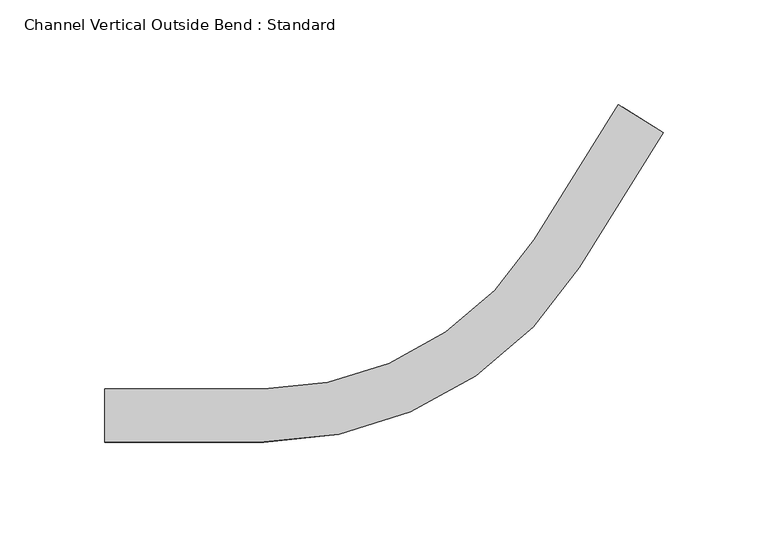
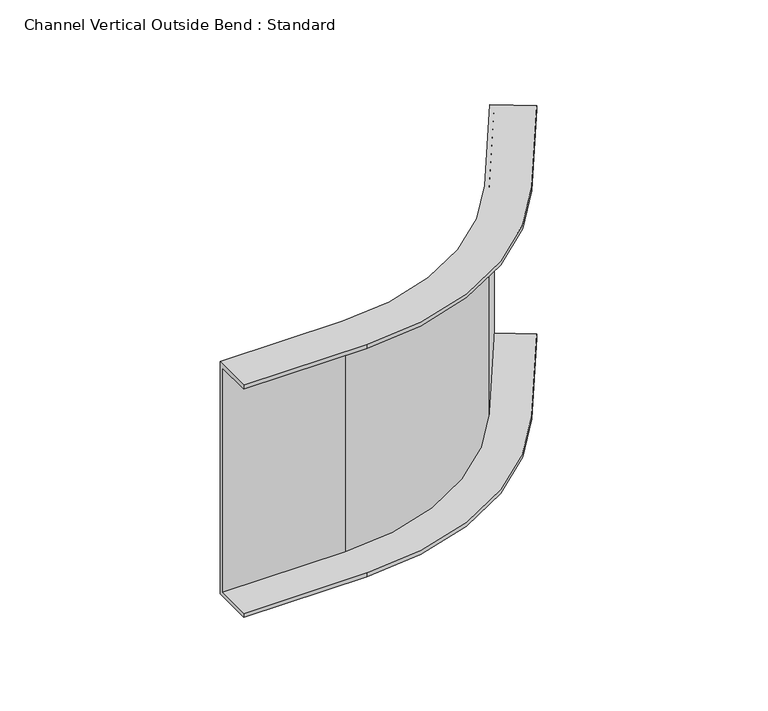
"""IFC4 building model written with IfcOpenShell, lengths in millimetres: cable carrier fitting geometry, Channel Vertical Outside Bend : Standard."""

from ifc_helpers import new_model, si_unit, frame, origin, place, context, project, spatial, polyline, circle_curve, source, transform, mapped, element, save
from ifc_brep_helpers import plane_surface, cylinder_surface, revolved_surface, advanced_brep


def channel_vertical_outside_bend_standard_74500d54(model_context):
    return source(origin(), model_context, "Body", "AdvancedBrep", [
        advanced_brep(
        [(-167.7164244, -12.7, 76.2), (-167.7164244, 12.7, 76.2), (-167.7164244, 12.7, -76.2), (-167.7164244, -12.7, -76.2), (-167.7164244, -12.7, -73.66), (-167.7164244, 10.16, -73.66), (-167.7164244, 10.16, 73.66), (-167.7164244, -12.7, 73.66), (99.646375, 135.5016197, 76.2), (99.646375, 135.5016197, 73.66), (80.2599955, 147.6155741, 73.66), (80.2599955, 147.6155741, -73.66), (99.646375, 135.5016197, -73.66), (99.646375, 135.5016197, -76.2), (78.1059534, 148.9615691, -76.2), (78.1059534, 148.9615691, 76.2), (-91.5164244, -12.7, 76.2), (59.2665271, 70.8803548, 76.2), (37.7261055, 84.3403041, 76.2), (-91.5164244, 12.7, 76.2), (-91.5164244, 12.7, -76.2), (37.7261055, 84.3403041, -76.2), (59.2665271, 70.8803548, -76.2), (-91.5164244, -12.7, -76.2), (-91.5164244, -12.7, -73.66), (59.2665271, 70.8803548, -73.66), (39.8801476, 82.9943092, -73.66), (-91.5164244, 10.16, -73.66), (-91.5164244, 10.16, 73.66), (39.8801476, 82.9943092, 73.66), (59.2665271, 70.8803548, 73.66), (-91.5164244, -12.7, 73.66)],
        [
            (0, 1),
            (1, 2),
            (2, 3),
            (3, 4),
            (4, 5),
            (5, 6),
            (6, 7),
            (7, 0),
            (8, 9),
            (9, 10),
            (10, 11),
            (11, 12),
            (12, 13),
            (13, 14),
            (14, 15),
            (15, 8),
            (0, 16),
            (16, 17, circle_curve(frame((-91.5164244, 165.1, 76.2), z_axis=(0.0, 0.0, 1.0), x_axis=(0.0, -1.0, 0.0)), 177.8)),
            (17, 8),
            (15, 18),
            (18, 19, circle_curve(frame((-91.5164244, 165.1, 76.2), z_axis=(0.0, 0.0, -1.0), x_axis=(0.0, -1.0, 0.0)), 152.4)),
            (19, 1),
            (19, 20),
            (20, 2),
            (20, 21, circle_curve(frame((-91.5164244, 165.1, -76.2), z_axis=(0.0, 0.0, 1.0), x_axis=(0.0, -1.0, 0.0)), 152.4)),
            (21, 14),
            (13, 22),
            (22, 23, circle_curve(frame((-91.5164244, 165.1, -76.2), z_axis=(0.0, 0.0, -1.0), x_axis=(0.0, -1.0, 0.0)), 177.8)),
            (23, 3),
            (23, 24),
            (24, 4),
            (24, 25, circle_curve(frame((-91.5164244, 165.1, -73.66), z_axis=(0.0, 0.0, 1.0), x_axis=(0.0, -1.0, 0.0)), 177.8)),
            (25, 12),
            (11, 26),
            (26, 27, circle_curve(frame((-91.5164244, 165.1, -73.66), z_axis=(0.0, 0.0, -1.0), x_axis=(0.0, -1.0, 0.0)), 154.94)),
            (27, 5),
            (27, 28),
            (28, 6),
            (28, 29, circle_curve(frame((-91.5164244, 165.1, 73.66), z_axis=(0.0, 0.0, 1.0), x_axis=(0.0, -1.0, 0.0)), 154.94)),
            (29, 10),
            (9, 30),
            (30, 31, circle_curve(frame((-91.5164244, 165.1, 73.66), z_axis=(0.0, 0.0, -1.0), x_axis=(0.0, -1.0, 0.0)), 177.8)),
            (31, 7),
            (31, 16),
            (18, 21),
            (22, 25),
            (26, 29),
            (30, 17),
        ],
        [
            plane_surface(frame((-167.7164244, 0.0, 0.0), z_axis=(-1.0, 0.0, 0.0), x_axis=(0.0, 0.0, 1.0))),
            plane_surface(frame((88.8761642, 142.2315944, 0.0), z_axis=(0.5299192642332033, 0.8480480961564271, 0.0), x_axis=(0.0, 0.0, 1.0))),
            plane_surface(frame((-167.7164244, -12.7, 76.2), z_axis=(0.0, 0.0, 1.0), x_axis=(1.0, 0.0, 0.0))),
            plane_surface(frame((-167.7164244, 12.7, 76.2), z_axis=(0.0, 1.0, 0.0), x_axis=(1.0, 0.0, 0.0))),
            plane_surface(frame((-167.7164244, 12.7, -76.2), z_axis=(0.0, 0.0, -1.0), x_axis=(1.0, 0.0, 0.0))),
            plane_surface(frame((-167.7164244, -12.7, -76.2), z_axis=(0.0, -1.0, 0.0), x_axis=(1.0, 0.0, 0.0))),
            plane_surface(frame((-167.7164244, -12.7, -73.66), z_axis=(0.0, 0.0, 1.0), x_axis=(1.0, 0.0, 0.0))),
            plane_surface(frame((-167.7164244, 10.16, -73.66), z_axis=(0.0, -1.0, 0.0), x_axis=(1.0, 0.0, 0.0))),
            plane_surface(frame((-167.7164244, 10.16, 73.66), z_axis=(0.0, 0.0, -1.0), x_axis=(1.0, 0.0, 0.0))),
            plane_surface(frame((-167.7164244, -12.7, 73.66), z_axis=(0.0, -1.0, 0.0), x_axis=(1.0, 0.0, 0.0))),
            revolved_surface(polyline([(-91.5164244, 12.699999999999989, 76.2), (-91.5164244, 12.699999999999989, -76.2)]), (-91.5164244, 165.1, 0.0), (0.0, 0.0, 1.0)),
            cylinder_surface(frame((-91.5164244, 165.1, 0.0), z_axis=(0.0, 0.0, 1.0), x_axis=(0.0, -1.0, 0.0)), 177.8),
            cylinder_surface(frame((-91.5164244, 165.1, 0.0), z_axis=(0.0, 0.0, 1.0), x_axis=(0.0, -1.0, 0.0)), 154.94),
            plane_surface(frame((37.7261055, 84.3403041, 76.2), z_axis=(-0.8480480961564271, 0.5299192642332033, 0.0), x_axis=(0.5299192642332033, 0.8480480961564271, 0.0))),
            plane_surface(frame((59.2665271, 70.8803548, -76.2), z_axis=(0.8480480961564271, -0.5299192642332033, 0.0), x_axis=(0.5299192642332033, 0.8480480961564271, 0.0))),
            plane_surface(frame((39.8801476, 82.9943092, -73.66), z_axis=(0.8480480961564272, -0.5299192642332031, 0.0), x_axis=(0.5299192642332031, 0.8480480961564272, 0.0))),
            plane_surface(frame((59.2665271, 70.8803548, 73.66), z_axis=(0.8480480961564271, -0.5299192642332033, 0.0), x_axis=(0.5299192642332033, 0.8480480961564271, 0.0))),
        ],
        [
            (0, [[1, 2, 3, 4, 5, 6, 7, 8]]),
            (1, [[9, 10, 11, 12, 13, 14, 15, 16]]),
            (2, [[-1, 17, 18, 19, -16, 20, 21, 22]]),
            (3, [[-2, -22, 23, 24]]),
            (4, [[-3, -24, 25, 26, -14, 27, 28, 29]]),
            (5, [[-4, -29, 30, 31]]),
            (6, [[-5, -31, 32, 33, -12, 34, 35, 36]]),
            (7, [[-6, -36, 37, 38]]),
            (8, [[-7, -38, 39, 40, -10, 41, 42, 43]]),
            (9, [[-8, -43, 44, -17]]),
            (10, [[-25, -23, -21, 45]]),
            (11, [[-32, -30, -28, 46]]),
            (12, [[-39, -37, -35, 47]]),
            (11, [[-18, -44, -42, 48]]),
            (13, [[-45, -20, -15, -26]]),
            (14, [[-46, -27, -13, -33]]),
            (15, [[-47, -34, -11, -40]]),
            (16, [[-48, -41, -9, -19]]),
        ],
    ),
    ])


if __name__ == "__main__":
    model = new_model("IFC4")
    model_context = context("Model", 3, world=origin())
    ifc_project = project(units=[si_unit("LENGTHUNIT", "METRE", prefix="MILLI")], contexts=[model_context])
    site = spatial("IfcSite", under=ifc_project)
    building = spatial("IfcBuilding", under=site)
    placement = place(None, origin())
    channel_vertical_outside_bend_standard_shape = channel_vertical_outside_bend_standard_74500d54(model_context)
    element("IfcCableCarrierFitting", 1, ObjectType="Channel Vertical Outside Bend : Standard", at=placement, inside=building, context=model_context, shape_type="MappedRepresentation", body=[
        mapped(channel_vertical_outside_bend_standard_shape, transform((0.0, 0.0, 0.0), x_axis=(1.0, 0.0, 0.0), y_axis=(0.0, 1.0, 0.0), z_axis=(0.0, 0.0, 1.0))),
    ])
    save(model, "model.ifc")
